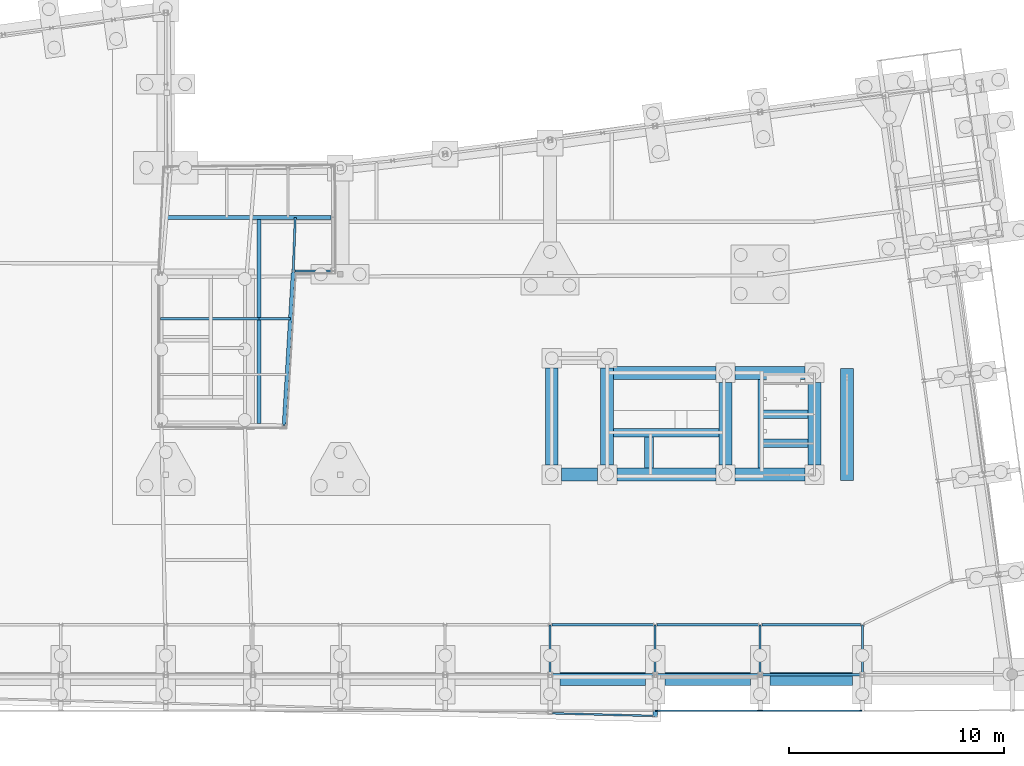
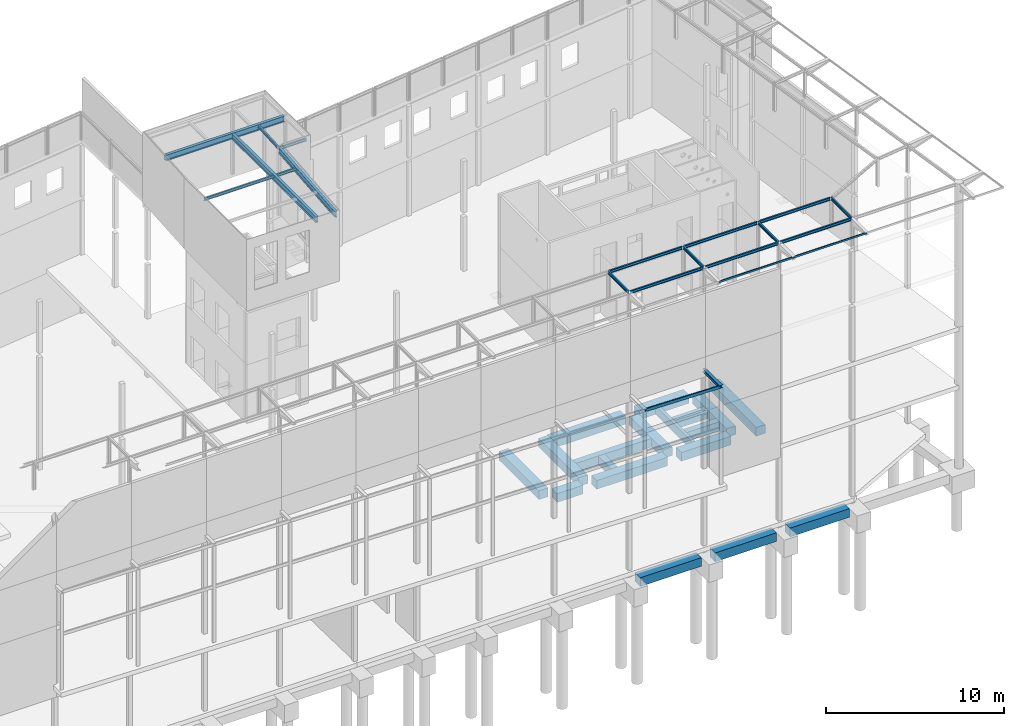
# One storey, part 63 of 82: 39 beams.
"""IFC2X3 building model written with IfcOpenShell, lengths in millimetres."""

from ifc_helpers import new_model, si_unit, frame, frame_2d, origin_with_axes, place, context, subcontext, project, spatial, rectangle, i_section, u_section, extrude, boolean, clip, halfspace, material, type_object, element, save


model = new_model("IFC2X3")

# Units and contexts
model_context = context("Model", 3, precision=1e-05, world=origin_with_axes())
body_context = subcontext(model_context, "Body", "Model", "MODEL_VIEW")
ifc_project = project(units=[si_unit("LENGTHUNIT", "METRE", prefix="MILLI"), si_unit("AREAUNIT", "SQUARE_METRE"), si_unit("VOLUMEUNIT", "CUBIC_METRE"), si_unit("MASSUNIT", "GRAM", prefix="KILO"), si_unit("TIMEUNIT", "SECOND"), si_unit("PLANEANGLEUNIT", "RADIAN"), si_unit("SOLIDANGLEUNIT", "STERADIAN"), si_unit("THERMODYNAMICTEMPERATUREUNIT", "DEGREE_CELSIUS"), si_unit("LUMINOUSINTENSITYUNIT", "LUMEN")], contexts=[model_context])

# Site, building, storey
site_placement = place(None, origin_with_axes())
site = spatial("IfcSite", under=ifc_project, at=site_placement, Name="Undefined", CompositionType="ELEMENT")
building_placement = place(site_placement, origin_with_axes())
building = spatial("IfcBuilding", under=site, at=building_placement, Name="Undefined", CompositionType="ELEMENT")
storey_placement = place(building_placement, origin_with_axes())
storey = spatial("IfcBuildingStorey", under=building, at=storey_placement, Name="Undefined", CompositionType="ELEMENT", Elevation=0.0)

# Beams
ifc_material_1 = material(Name="STEEL/S275JR")
beam_type_1 = type_object("IfcBeamType", Name="IPE200", PredefinedType="NOTDEFINED")
for number, where, z_axis, x_axis, name in (
    (1, (61599.9999979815, -0.00129040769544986, 19025.0300000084), (0.0, 1.29029999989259e-05, 0.999999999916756), (1.00000135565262e-09, 0.999999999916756, -1.29029999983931e-05), "POUTRE"),
    (2, (56849.9999979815, -0.00129040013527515, 19025.0300000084), (0.0, 1.29029999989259e-05, 0.999999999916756), (1.00000135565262e-09, 0.999999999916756, -1.29029999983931e-05), "POUTRE"),
    (3, (51974.9999979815, -0.00129039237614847, 19025.0300000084), (0.0, 1.29029999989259e-05, 0.999999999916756), (1.00000135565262e-09, 0.999999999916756, -1.29029999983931e-05), "POUTRE"),
    (4, (47099.9999979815, -0.0012903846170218, 19025.0300000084), (0.0, 1.29029999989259e-05, 0.999999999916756), (1.00000135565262e-09, 0.999999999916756, -1.29029999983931e-05), "POUTRE"),
):
    element("IfcBeam", number, at=place(storey_placement, frame(where, z_axis=z_axis, x_axis=x_axis)), inside=storey, type_object=beam_type_1, material=ifc_material_1, Name=name, ObjectType="IPE200", context=body_context, shape_type="SweptSolid", body=[
        extrude(i_section(OverallWidth=100.0, OverallDepth=200.0, WebThickness=5.599999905, FlangeThickness=8.5, FilletRadius=12.0, at=frame_2d((5.17284206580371e-08, 4.49290382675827e-10), x_axis=(1.0, 0.0))), frame((2321.00129012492, -9.56248207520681e-23, 3.93192912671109e-18), z_axis=(-1.0, 0.0, 0.0), x_axis=(-2.77555756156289e-17, -1.0, 0.0)), (0.0, 0.0, 1.0), 2317.0),
    ])
beam_1_placement = place(storey_placement, frame((35262.4999995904, 21244.1000000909, 21745.0), z_axis=(0.0, 0.0, 1.0), x_axis=(-0.0369801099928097, -0.999316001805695, 0.0)))
element("IfcBeam", 5, at=beam_1_placement, inside=storey, type_object=beam_type_1, material=ifc_material_1, Name="POUTRE", ObjectType="IPE200", context=body_context, shape_type="CSG", body=[
    boolean("DIFFERENCE", boolean("DIFFERENCE", boolean("DIFFERENCE", extrude(i_section(OverallWidth=100.0, OverallDepth=200.0, WebThickness=5.599999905, FlangeThickness=8.5, FilletRadius=12.0, at=frame_2d((5.17284206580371e-08, 4.49290382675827e-10), x_axis=(1.0, 0.0))), frame((2489.04787850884, 0.0, 3.63797880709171e-12), z_axis=(-1.0, 0.0, 0.0), x_axis=(-2.77555756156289e-17, -1.0, 0.0)), (0.0, 0.0, 1.0), 2488.1), extrude(rectangle(XDim=88.0, YDim=90.9, at=frame_2d((5.17284206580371e-08, 4.49290382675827e-10), x_axis=(1.0, 0.0))), frame((2439.73704411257, 95.6910843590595, 101.000000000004), z_axis=(0.0, -6.50000002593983e-08, -0.999999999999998), x_axis=(-0.999315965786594, -0.0369810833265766, 0.0)), (0.0, 0.0, 1.0), 202.0)), halfspace(frame((2485.30697548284, -2.91402102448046e-08, -999.999999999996), z_axis=(-0.999315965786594, -0.0369810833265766, 0.0), x_axis=(-0.036981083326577, 0.999315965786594, 0.0)), True)), halfspace(frame((4.69737536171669, -3.30765033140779e-08, -999.999999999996), z_axis=(0.999318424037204, 0.036914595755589, 0.0), x_axis=(0.036914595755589, -0.999318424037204, 0.0)), True)),
])
beam_2_placement = place(storey_placement, frame((33575.0000004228, 16535.1505018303, 21745.0), z_axis=(0.0, 0.0, 1.0), x_axis=(1.0, 0.0, 0.0)))
element("IfcBeam", 6, at=beam_2_placement, inside=storey, type_object=beam_type_1, material=ifc_material_1, Name="POUTRE", ObjectType="IPE200", context=body_context, shape_type="Clipping", body=[
    clip(extrude(i_section(OverallWidth=100.0, OverallDepth=200.0, WebThickness=5.599999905, FlangeThickness=8.5, FilletRadius=12.0, at=frame_2d((5.17284206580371e-08, 4.49290382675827e-10), x_axis=(1.0, 0.0))), frame((1462.4824416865, 0.0, 0.0), z_axis=(-1.0, 0.0, 0.0), x_axis=(-2.77555756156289e-17, -1.0, 0.0)), (0.0, 0.0, 1.0), 1458.2), halfspace(frame((1459.48955715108, -2.67646100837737e-08, -1000.0), z_axis=(-0.998248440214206, 0.0591612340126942, 0.0), x_axis=(0.0591612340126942, 0.998248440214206, 0.0)), True)),
])
beam_3_placement = place(storey_placement, frame((29249.9999999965, 16535.1505018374, 21745.0), z_axis=(0.0, 0.0, 1.0), x_axis=(1.0, 0.0, 0.0)))
element("IfcBeam", 7, at=beam_3_placement, inside=storey, type_object=beam_type_1, material=ifc_material_1, Name="POUTRE", ObjectType="IPE200", context=body_context, shape_type="SweptSolid", body=[
    extrude(i_section(OverallWidth=100.0, OverallDepth=200.0, WebThickness=5.599999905, FlangeThickness=8.5, FilletRadius=12.0, at=frame_2d((5.17284206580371e-08, 4.49290382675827e-10), x_axis=(1.0, 0.0))), frame((4320.70000113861, 0.0, 0.0), z_axis=(-1.0, 0.0, 0.0), x_axis=(-2.77555756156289e-17, -1.0, 0.0)), (0.0, 0.0, 1.0), 4562.6),
])
beam_4_placement = place(storey_placement, frame((35170.4450535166, 18756.4929699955, 21745.0), z_axis=(0.0, 0.0, 1.0), x_axis=(0.999999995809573, 9.15469999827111e-05, 0.0)))
element("IfcBeam", 8, at=beam_4_placement, inside=storey, type_object=beam_type_1, material=ifc_material_1, Name="POUTRE", ObjectType="IPE200", context=body_context, shape_type="SweptSolid", body=[
    extrude(i_section(OverallWidth=100.0, OverallDepth=200.0, WebThickness=5.599999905, FlangeThickness=8.5, FilletRadius=12.0, at=frame_2d((5.17284206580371e-08, 4.49290382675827e-10), x_axis=(1.0, 0.0))), frame((1772.19505416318, -2.40177215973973e-17, 0.0), z_axis=(-1.0, 0.0, 0.0), x_axis=(-2.77555756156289e-17, -1.0, 0.0)), (0.0, 0.0, 1.0), 1692.2),
])
beam_5_placement = place(storey_placement, frame((56850.0000000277, 2324.9999999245, 19025.0000000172), z_axis=(0.0, 0.0, 1.0), x_axis=(1.0, 0.0, 0.0)))
element("IfcBeam", 9, at=beam_5_placement, inside=storey, type_object=beam_type_1, material=ifc_material_1, Name="POUTRE", ObjectType="IPE200", context=body_context, shape_type="SweptSolid", body=[
    extrude(i_section(OverallWidth=100.0, OverallDepth=200.0, WebThickness=5.599999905, FlangeThickness=8.5, FilletRadius=12.0, at=frame_2d((5.17284206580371e-08, 4.49290382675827e-10), x_axis=(1.0, 0.0))), frame((4670.00000115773, 0.0, 0.0), z_axis=(-1.0, 0.0, 0.0), x_axis=(-2.77555756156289e-17, -1.0, 0.0)), (0.0, 0.0, 1.0), 4590.0),
])
for number, where, z_axis, x_axis, name in (
    (10, (51975.0000001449, 2324.99999991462, 19025.0000000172), (0.0, 0.0, 1.0), (1.0, 0.0, 0.0), "POUTRE"),
    (11, (47100.0000001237, 2324.99999986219, 19025.0000000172), (0.0, 0.0, 1.0), (1.0, 0.0, 0.0), "POUTRE"),
):
    element("IfcBeam", number, at=place(storey_placement, frame(where, z_axis=z_axis, x_axis=x_axis)), inside=storey, type_object=beam_type_1, material=ifc_material_1, Name=name, ObjectType="IPE200", context=body_context, shape_type="SweptSolid", body=[
        extrude(i_section(OverallWidth=100.0, OverallDepth=200.0, WebThickness=5.599999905, FlangeThickness=8.5, FilletRadius=12.0, at=frame_2d((5.17284206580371e-08, 4.49290382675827e-10), x_axis=(1.0, 0.0))), frame((4795.00000103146, 0.0, 0.0), z_axis=(-1.0, 0.0, 0.0), x_axis=(-2.77555756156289e-17, -1.0, 0.0)), (0.0, 0.0, 1.0), 4715.0),
    ])
beam_6_placement = place(storey_placement, frame((56850.0006315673, -8.15936971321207e-08, 19025.000000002), z_axis=(-6.11252893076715e-06, 2.76481135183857e-10, 0.999999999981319), x_axis=(0.999999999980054, 0.0, 6.31599999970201e-06)))
element("IfcBeam", 12, at=beam_6_placement, inside=storey, type_object=beam_type_1, material=ifc_material_1, Name="POUTRE", ObjectType="IPE200", context=body_context, shape_type="SweptSolid", body=[
    extrude(i_section(OverallWidth=100.0, OverallDepth=200.0, WebThickness=5.599999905, FlangeThickness=8.5, FilletRadius=12.0, at=frame_2d((5.17284206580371e-08, 4.49290382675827e-10), x_axis=(1.0, 0.0))), frame((4669.99936860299, -1.32348898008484e-23, -3.95564332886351e-18), z_axis=(-1.0, 0.0, 0.0), x_axis=(-2.77555756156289e-17, -1.0, 0.0)), (0.0, 0.0, 1.0), 4590.0),
])
beam_7_placement = place(storey_placement, frame((51974.9993846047, -7.35289802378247e-08, 19025.0300000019), z_axis=(6.15400000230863e-06, 0.0, 0.999999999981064), x_axis=(0.999999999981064, 0.0, -6.1540000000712e-06)))
element("IfcBeam", 13, at=beam_7_placement, inside=storey, type_object=beam_type_1, material=ifc_material_1, Name="POUTRE", ObjectType="IPE200", context=body_context, shape_type="SweptSolid", body=[
    extrude(i_section(OverallWidth=100.0, OverallDepth=200.0, WebThickness=5.599999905, FlangeThickness=8.5, FilletRadius=12.0, at=frame_2d((5.17284206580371e-08, 4.49290382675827e-10), x_axis=(1.0, 0.0))), frame((4795.00061555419, 0.0, 4.06152350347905e-18), z_axis=(-1.0, 0.0, 0.0), x_axis=(-2.77555756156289e-17, -1.0, 0.0)), (0.0, 0.0, 1.0), 4715.0),
])
beam_8_placement = place(storey_placement, frame((47100.0001205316, -6.54460734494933e-08, 19025.0002625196), z_axis=(-6.11252893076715e-06, 2.76481135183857e-10, 0.999999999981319), x_axis=(0.999999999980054, 0.0, 6.31599999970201e-06)))
element("IfcBeam", 14, at=beam_8_placement, inside=storey, type_object=beam_type_1, material=ifc_material_1, Name="POUTRE", ObjectType="IPE200", context=body_context, shape_type="SweptSolid", body=[
    extrude(i_section(OverallWidth=100.0, OverallDepth=200.0, WebThickness=5.599999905, FlangeThickness=8.5, FilletRadius=12.0, at=frame_2d((5.17284206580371e-08, 4.49290382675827e-10), x_axis=(1.0, 0.0))), frame((4794.99987961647, 0.0, -4.06152288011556e-18), z_axis=(-1.0, 0.0, 0.0), x_axis=(-2.77555756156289e-17, -1.0, 0.0)), (0.0, 0.0, 1.0), 4715.0),
])
beam_type_2 = type_object("IfcBeamType", Name="UPE120", PredefinedType="NOTDEFINED")
beam_9_placement = place(storey_placement, frame((56859.6818417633, -1670.00005427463, 19065.0), z_axis=(0.0, -6.50000002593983e-08, -0.999999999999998), x_axis=(1.0, 0.0, 0.0)))
element("IfcBeam", 15, at=beam_9_placement, inside=storey, type_object=beam_type_2, material=ifc_material_1, Name="POUTRE", ObjectType="UPE120", context=body_context, shape_type="CSG", body=[
    boolean("DIFFERENCE", boolean("DIFFERENCE", extrude(u_section(Depth=120.0, FlangeWidth=60.0, WebThickness=5.0, FlangeThickness=8.0, FilletRadius=12.0, at=frame_2d((5.17284206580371e-08, 4.49290382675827e-10), x_axis=(1.0, 0.0))), frame((4735.31767284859, 0.0, 0.0), z_axis=(-1.0, 0.0, 0.0), x_axis=(-2.77555756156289e-17, -1.0, 0.0)), (0.0, 0.0, 1.0), 4740.0), extrude(rectangle(XDim=22.0, YDim=112.0, at=frame_2d((5.17284206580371e-08, 4.49290382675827e-10), x_axis=(1.0, 0.0))), frame((49.3176728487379, 31.0, -50.0148687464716), z_axis=(-2.77555756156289e-17, -1.0, 0.0), x_axis=(0.0, 0.0, 1.0)), (0.0, 0.0, 1.0), 62.0)), extrude(rectangle(XDim=22.0, YDim=112.0, at=frame_2d((5.17284206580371e-08, 4.49290382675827e-10), x_axis=(1.0, 0.0))), frame((4681.31767284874, -31.0, -50.0148687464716), z_axis=(0.0, 1.0, 0.0), x_axis=(0.0, 0.0, 1.0)), (0.0, 0.0, 1.0), 62.0)),
])
beam_10_placement = place(storey_placement, frame((51984.681841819, -1670.00005428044, 19065.0), z_axis=(0.0, -6.50000002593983e-08, -0.999999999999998), x_axis=(1.0, 0.0, 0.0)))
element("IfcBeam", 16, at=beam_10_placement, inside=storey, type_object=beam_type_2, material=ifc_material_1, Name="POUTRE", ObjectType="UPE120", context=body_context, shape_type="CSG", body=[
    boolean("DIFFERENCE", boolean("DIFFERENCE", extrude(u_section(Depth=120.0, FlangeWidth=60.0, WebThickness=5.0, FlangeThickness=8.0, FilletRadius=12.0, at=frame_2d((5.17284206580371e-08, 4.49290382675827e-10), x_axis=(1.0, 0.0))), frame((4860.31767279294, 0.0, 0.0), z_axis=(-1.0, 0.0, 0.0), x_axis=(-2.77555756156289e-17, -1.0, 0.0)), (0.0, 0.0, 1.0), 4865.0), extrude(rectangle(XDim=22.0, YDim=112.0, at=frame_2d((5.17284206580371e-08, 4.49290382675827e-10), x_axis=(1.0, 0.0))), frame((49.3176728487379, 31.0, -50.0148687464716), z_axis=(-2.77555756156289e-17, -1.0, 0.0), x_axis=(0.0, 0.0, 1.0)), (0.0, 0.0, 1.0), 62.0)), extrude(rectangle(XDim=22.0, YDim=112.0, at=frame_2d((5.17284206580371e-08, 4.49290382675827e-10), x_axis=(1.0, 0.0))), frame((4806.31767279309, -31.0, -50.0148687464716), z_axis=(0.0, 1.0, 0.0), x_axis=(0.0, 0.0, 1.0)), (0.0, 0.0, 1.0), 62.0)),
])
beam_type_3 = type_object("IfcBeamType", Name="IPE400", PredefinedType="NOTDEFINED")
beam_11_placement = place(storey_placement, frame((33575.0000013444, 11624.9999997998, 21695.0), z_axis=(0.0, 0.0, 1.0), x_axis=(0.0, 1.0, 0.0)))
element("IfcBeam", 17, at=beam_11_placement, inside=storey, type_object=beam_type_3, material=ifc_material_1, Name="POUTRE", ObjectType="IPE400", context=body_context, shape_type="CSG", body=[
    boolean("DIFFERENCE", boolean("DIFFERENCE", boolean("DIFFERENCE", boolean("DIFFERENCE", boolean("DIFFERENCE", extrude(i_section(OverallWidth=180.0, OverallDepth=400.0, WebThickness=8.600000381, FlangeThickness=13.5, FilletRadius=21.0, at=frame_2d((5.17284206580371e-08, 4.49290382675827e-10), x_axis=(1.0, 0.0))), frame((9614.51645735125, 0.0, 0.0), z_axis=(-1.0, 0.0, 0.0), x_axis=(-2.77555756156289e-17, -1.0, 0.0)), (0.0, 0.0, 1.0), 9657.6), extrude(rectangle(XDim=35.5, YDim=97.7, at=frame_2d((5.17284206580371e-08, 4.49290382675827e-10), x_axis=(1.0, 0.0))), frame((2.9313771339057, -91.4589538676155, -183.25), z_axis=(0.00979726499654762, 0.999952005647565, 0.0), x_axis=(0.0, -6.50000002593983e-08, -0.999999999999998)), (0.0, 0.0, 1.0), 275.7)), extrude(rectangle(XDim=35.5, YDim=97.7, at=frame_2d((5.17284206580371e-08, 4.49290382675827e-10), x_axis=(1.0, 0.0))), frame((2.9313771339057, -91.4589538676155, 183.25), z_axis=(0.00979726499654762, 0.999952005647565, 0.0), x_axis=(0.0, -6.50000002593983e-08, -0.999999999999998)), (0.0, 0.0, 1.0), 275.7)), extrude(rectangle(XDim=35.5, YDim=97.7, at=frame_2d((5.17284206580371e-08, 4.49290382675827e-10), x_axis=(1.0, 0.0))), frame((9567.67242342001, 91.0030714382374, -183.249999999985), z_axis=(-6.55589999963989e-05, -0.999999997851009, 0.0), x_axis=(0.0, -6.50000002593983e-08, -0.999999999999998)), (0.0, 0.0, 1.0), 182.6)), extrude(rectangle(XDim=35.5, YDim=97.7, at=frame_2d((5.17284206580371e-08, 4.49290382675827e-10), x_axis=(1.0, 0.0))), frame((9567.67242342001, 91.0030714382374, 183.25), z_axis=(-6.55589999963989e-05, -0.999999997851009, 0.0), x_axis=(0.0, -6.50000002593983e-08, -0.999999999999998)), (0.0, 0.0, 1.0), 182.6)), halfspace(frame((-43.0247808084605, 1.87428668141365e-08, -1000.0), z_axis=(0.999952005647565, -0.00979726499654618, 0.0), x_axis=(-0.00979726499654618, -0.999952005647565, 0.0)), True)),
])
beam_12_placement = place(storey_placement, frame((35170.4450535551, 18756.4929699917, 21695.0), z_axis=(0.0, 0.0, 1.0), x_axis=(-0.0591612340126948, -0.998248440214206, 0.0)))
element("IfcBeam", 18, at=beam_12_placement, inside=storey, type_object=beam_type_3, material=ifc_material_1, Name="POUTRE", ObjectType="IPE400", context=body_context, shape_type="CSG", body=[
    boolean("DIFFERENCE", boolean("DIFFERENCE", boolean("DIFFERENCE", boolean("DIFFERENCE", boolean("DIFFERENCE", boolean("DIFFERENCE", extrude(i_section(OverallWidth=180.0, OverallDepth=400.0, WebThickness=8.600000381, FlangeThickness=13.5, FilletRadius=21.0, at=frame_2d((5.17284206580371e-08, 4.49290382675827e-10), x_axis=(1.0, 0.0))), frame((7209.04924612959, 0.0, -3.63797880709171e-12), z_axis=(-1.0, 0.0, 0.0), x_axis=(-2.77555756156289e-17, -1.0, 0.0)), (0.0, 0.0, 1.0), 7215.2), extrude(rectangle(XDim=38.9, YDim=88.0, at=frame_2d((5.17284206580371e-08, 4.49290382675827e-10), x_axis=(1.0, 0.0))), frame((41.6916689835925, 74.0567192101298, 200.999999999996), z_axis=(0.0, -6.50000002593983e-08, -0.999999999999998), x_axis=(0.0591622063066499, -0.99824838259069, 0.0)), (0.0, 0.0, 1.0), 402.0)), extrude(rectangle(XDim=88.0, YDim=460.0, at=frame_2d((5.17284206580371e-08, 4.49290382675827e-10), x_axis=(1.0, 0.0))), frame((62.6020702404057, -278.766063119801, 200.999999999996), z_axis=(0.0, -6.50000002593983e-08, -0.999999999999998), x_axis=(0.998248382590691, 0.0591622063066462, 0.0)), (0.0, 0.0, 1.0), 402.0)), extrude(rectangle(XDim=38.9, YDim=88.0, at=frame_2d((5.17284206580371e-08, 4.49290382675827e-10), x_axis=(1.0, 0.0))), frame((7161.19920422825, -74.056719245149, 200.999999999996), z_axis=(0.0, -6.50000002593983e-08, -0.999999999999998), x_axis=(-0.0591622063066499, 0.99824838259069, 0.0)), (0.0, 0.0, 1.0), 402.0)), extrude(rectangle(XDim=88.0, YDim=465.1, at=frame_2d((5.17284206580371e-08, 4.49290382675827e-10), x_axis=(1.0, 0.0))), frame((7140.13803171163, 281.310037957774, 200.999999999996), z_axis=(0.0, -6.50000002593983e-08, -0.999999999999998), x_axis=(-0.998248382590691, -0.059162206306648, 0.0)), (0.0, 0.0, 1.0), 402.0)), halfspace(frame((7198.88385443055, -1.71276042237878e-08, -1000.0), z_axis=(-0.998248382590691, -0.059162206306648, 0.0), x_axis=(-0.0591622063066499, 0.99824838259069, 0.0)), True)), halfspace(frame((4.00701880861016, -2.85072019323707e-08, -1000.0), z_axis=(0.998248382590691, 0.0591622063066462, 0.0), x_axis=(0.0591622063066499, -0.99824838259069, 0.0)), True)),
])
beam_13_placement = place(storey_placement, frame((29249.9999999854, 21244.100000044, 21695.0), z_axis=(0.0, 0.0, 1.0), x_axis=(0.999999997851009, -6.55589999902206e-05, 0.0)))
element("IfcBeam", 19, at=beam_13_placement, inside=storey, type_object=beam_type_3, material=ifc_material_1, Name="POUTRE", ObjectType="IPE400", context=body_context, shape_type="CSG", body=[
    boolean("DIFFERENCE", boolean("DIFFERENCE", boolean("DIFFERENCE", extrude(i_section(OverallWidth=180.0, OverallDepth=400.0, WebThickness=8.600000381, FlangeThickness=13.5, FilletRadius=21.0, at=frame_2d((5.17284206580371e-08, 4.49290382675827e-10), x_axis=(1.0, 0.0))), frame((7679.70039665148, -1.04079348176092e-16, 0.0), z_axis=(-1.0, 0.0, 0.0), x_axis=(-2.77555756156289e-17, -1.0, 0.0)), (0.0, 0.0, 1.0), 7791.2), extrude(rectangle(XDim=35.5, YDim=97.7, at=frame_2d((5.17284206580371e-08, 4.49290382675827e-10), x_axis=(1.0, 0.0))), frame((-69.0406044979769, -93.3468397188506, -183.25), z_axis=(0.0501194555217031, 0.998743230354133, 0.0), x_axis=(0.0, -6.50000002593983e-08, -0.999999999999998)), (0.0, 0.0, 1.0), 572.5)), extrude(rectangle(XDim=35.5, YDim=97.7, at=frame_2d((5.17284206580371e-08, 4.49290382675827e-10), x_axis=(1.0, 0.0))), frame((-69.0406044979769, -93.3468397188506, 183.249999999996), z_axis=(0.0501194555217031, 0.998743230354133, 0.0), x_axis=(0.0, -6.50000002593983e-08, -0.999999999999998)), (0.0, 0.0, 1.0), 572.5)), halfspace(frame((-111.265178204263, -1.73786247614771e-08, -1000.0), z_axis=(0.998743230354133, -0.0501194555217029, 0.0), x_axis=(-0.0501194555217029, -0.998743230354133, 0.0)), True)),
])
beam_type_4 = type_object("IfcBeamType", Name="UPE200", PredefinedType="NOTDEFINED")
beam_14_placement = place(storey_placement, frame((47101.0354454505, -1785.15877566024, 12025.0), z_axis=(0.0, -6.50000002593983e-08, -0.999999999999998), x_axis=(0.999664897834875, -0.0258861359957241, 0.0)))
element("IfcBeam", 20, at=beam_14_placement, inside=storey, type_object=beam_type_4, material=ifc_material_1, Name="POUTRE", ObjectType="UPE200", context=body_context, shape_type="CSG", body=[
    boolean("DIFFERENCE", boolean("DIFFERENCE", boolean("DIFFERENCE", boolean("DIFFERENCE", boolean("DIFFERENCE", boolean("DIFFERENCE", extrude(u_section(Depth=200.0, FlangeWidth=80.0, WebThickness=6.0, FlangeThickness=11.0, FilletRadius=13.0, at=frame_2d((5.17284206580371e-08, 4.49290382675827e-10), x_axis=(1.0, 0.0))), frame((4873.11774498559, 1.13686837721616e-13, 0.0), z_axis=(-1.0, 0.0, 0.0), x_axis=(-2.77555756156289e-17, -1.0, 0.0)), (0.0, 0.0, 1.0), 4871.7), extrude(rectangle(XDim=34.0, YDim=107.5, at=frame_2d((5.17284206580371e-08, 4.49290382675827e-10), x_axis=(1.0, 0.0))), frame((4815.11149004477, -162.89100776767, 84.0), z_axis=(0.02588613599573, 0.999664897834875, 0.0), x_axis=(0.0, 0.0, 1.0)), (0.0, 0.0, 1.0), 205.3)), extrude(rectangle(XDim=34.0, YDim=107.5, at=frame_2d((5.17284206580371e-08, 4.49290382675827e-10), x_axis=(1.0, 0.0))), frame((4815.11149004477, -162.89100776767, -84.0), z_axis=(0.02588613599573, 0.999664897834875, 0.0), x_axis=(0.0, 0.0, 1.0)), (0.0, 0.0, 1.0), 205.3)), extrude(rectangle(XDim=34.0, YDim=107.5, at=frame_2d((5.17284206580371e-08, 4.49290382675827e-10), x_axis=(1.0, 0.0))), frame((59.5218139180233, 165.621995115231, 84.0), z_axis=(-0.0258861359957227, -0.999664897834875, 0.0), x_axis=(0.0, 0.0, 1.0)), (0.0, 0.0, 1.0), 208.0)), extrude(rectangle(XDim=34.0, YDim=107.5, at=frame_2d((5.17284206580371e-08, 4.49290382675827e-10), x_axis=(1.0, 0.0))), frame((59.5218139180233, 165.621995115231, -84.0), z_axis=(-0.0258861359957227, -0.999664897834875, 0.0), x_axis=(0.0, 0.0, 1.0)), (0.0, 0.0, 1.0), 208.0)), halfspace(frame((4871.09686964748, 5.36316520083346e-08, 1000.0), z_axis=(-0.999664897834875, 0.0258861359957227, 0.0), x_axis=(-0.0258861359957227, -0.999664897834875, 0.0)), True)), halfspace(frame((3.4657159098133, 4.58945805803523e-08, 1000.0), z_axis=(0.999664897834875, -0.0258861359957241, 0.0), x_axis=(0.02588613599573, 0.999664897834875, 0.0)), True)),
])
beam_type_5 = type_object("IfcBeamType", Name="HEB200", PredefinedType="NOTDEFINED")
beam_15_placement = place(storey_placement, frame((51974.9999999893, -7.35217042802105e-08, 12025.0), z_axis=(0.0, 0.0, 1.0), x_axis=(-2.77555756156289e-17, -1.0, 0.0)))
element("IfcBeam", 21, at=beam_15_placement, inside=storey, type_object=beam_type_5, material=ifc_material_1, Name="POUTRE", ObjectType="HEB200", context=body_context, shape_type="SweptSolid", body=[
    extrude(i_section(OverallWidth=200.0, OverallDepth=200.0, WebThickness=9.0, FlangeThickness=15.0, FilletRadius=18.0, at=frame_2d((5.17284206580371e-08, 4.49290382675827e-10), x_axis=(1.0, 0.0))), frame((1951.38258896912, 0.0, 0.0), z_axis=(-1.0, 0.0, 0.0), x_axis=(-2.77555756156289e-17, -1.0, 0.0)), (0.0, 0.0, 1.0), 1951.4),
])
ifc_material_2 = material(Name="CONCRETE/C30/37")
beam_type_6 = type_object("IfcBeamType", Name="600*400", PredefinedType="NOTDEFINED")
beam_16_placement = place(storey_placement, frame((51690.6892198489, 9599.99881546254, -750.000000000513), z_axis=(0.0, 0.0, 1.0), x_axis=(0.0, 1.0, 0.0)))
element("IfcBeam", 22, at=beam_16_placement, inside=storey, type_object=beam_type_6, material=ifc_material_2, Name="LONGRINE", ObjectType="600*400", context=body_context, shape_type="SweptSolid", body=[
    extrude(rectangle(XDim=400.0, YDim=600.0, at=frame_2d((5.17284206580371e-08, 4.49290382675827e-10), x_axis=(1.0, 0.0))), frame((1450.00153156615, 0.0, 0.0), z_axis=(-1.0, 0.0, 0.0), x_axis=(-2.77555756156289e-17, -1.0, 0.0)), (0.0, 0.0, 1.0), 1450.0),
])
beam_17_placement = place(storey_placement, frame((50049.9993138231, 11250.0003470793, -750.000000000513), z_axis=(0.0, 0.0, 1.0), x_axis=(1.0, 0.0, 0.0)))
element("IfcBeam", 23, at=beam_17_placement, inside=storey, type_object=beam_type_6, material=ifc_material_2, Name="LONGRINE", ObjectType="600*400", context=body_context, shape_type="SweptSolid", body=[
    extrude(rectangle(XDim=400.0, YDim=600.0, at=frame_2d((5.17284206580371e-08, 4.49290382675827e-10), x_axis=(1.0, 0.0))), frame((4896.37904381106, 0.0, 0.0), z_axis=(-1.0, 0.0, 0.0), x_axis=(-2.77555756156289e-17, -1.0, 0.0)), (0.0, 0.0, 1.0), 4896.4),
])
beam_18_placement = place(storey_placement, frame((59074.9996189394, 12099.9997748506, -750.000000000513), z_axis=(0.0, 0.0, 1.0), x_axis=(-1.0, 0.0, 0.0)))
element("IfcBeam", 24, at=beam_18_placement, inside=storey, type_object=beam_type_6, material=ifc_material_2, Name="LONGRINE", ObjectType="600*400", context=body_context, shape_type="SweptSolid", body=[
    extrude(rectangle(XDim=400.0, YDim=600.0, at=frame_2d((5.17284206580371e-08, 4.49290382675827e-10), x_axis=(1.0, 0.0))), frame((2124.99961828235, 0.0, 0.0), z_axis=(-1.0, 0.0, 0.0), x_axis=(-2.77555756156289e-17, -1.0, 0.0)), (0.0, 0.0, 1.0), 2125.0),
])
beam_19_placement = place(storey_placement, frame((59074.9994744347, 10749.4681968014, -750.000000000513), z_axis=(0.0, 0.0, 1.0), x_axis=(-1.0, 0.0, 0.0)))
element("IfcBeam", 25, at=beam_19_placement, inside=storey, type_object=beam_type_6, material=ifc_material_2, Name="LONGRINE", ObjectType="600*400", context=body_context, shape_type="SweptSolid", body=[
    extrude(rectangle(XDim=400.0, YDim=600.0, at=frame_2d((5.17284206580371e-08, 4.49290382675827e-10), x_axis=(1.0, 0.0))), frame((2124.99947377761, 0.0, 0.0), z_axis=(-1.0, 0.0, 0.0), x_axis=(-2.77555756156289e-17, -1.0, 0.0)), (0.0, 0.0, 1.0), 2125.0),
])
beam_type_7 = type_object("IfcBeamType", Name="600*200", PredefinedType="NOTDEFINED")
beam_20_placement = place(storey_placement, frame((56850.0000006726, 9600.00181590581, -750.000000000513), z_axis=(0.0, 0.0, 1.0), x_axis=(0.0, 1.0, 0.0)))
element("IfcBeam", 26, at=beam_20_placement, inside=storey, type_object=beam_type_7, material=ifc_material_2, Name="LONGRINE", ObjectType="600*200", context=body_context, shape_type="SweptSolid", body=[
    extrude(rectangle(XDim=200.0, YDim=600.0, at=frame_2d((5.17284206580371e-08, 4.49290382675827e-10), x_axis=(1.0, 0.0))), frame((4124.99611639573, 0.0, 0.0), z_axis=(-1.0, 0.0, 0.0), x_axis=(-2.77555756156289e-17, -1.0, 0.0)), (0.0, 0.0, 1.0), 4125.0),
])
beam_type_8 = type_object("IfcBeamType", Name="600*600", PredefinedType="NOTDEFINED")
beam_21_placement = place(storey_placement, frame((55246.3783576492, 9299.99663916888, -750.000000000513), z_axis=(0.0, 0.0, 1.0), x_axis=(0.0, 1.0, 0.0)))
element("IfcBeam", 27, at=beam_21_placement, inside=storey, type_object=beam_type_8, material=ifc_material_2, Name="LONGRINE", ObjectType="600*600", context=body_context, shape_type="SweptSolid", body=[
    extrude(rectangle(XDim=600.0, YDim=600.0, at=frame_2d((5.17284206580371e-08, 4.49290382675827e-10), x_axis=(1.0, 0.0))), frame((4274.99958385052, 0.0, 0.0), z_axis=(-1.0, 0.0, 0.0), x_axis=(-2.77555756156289e-17, -1.0, 0.0)), (0.0, 0.0, 1.0), 3825.0),
])
beam_22_placement = place(storey_placement, frame((55246.3783580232, 14024.9962232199, -750.000000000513), z_axis=(0.0, 0.0, 1.0), x_axis=(-1.0, 0.0, 0.0)))
element("IfcBeam", 28, at=beam_22_placement, inside=storey, type_object=beam_type_8, material=ifc_material_2, Name="LONGRINE", ObjectType="600*600", context=body_context, shape_type="SweptSolid", body=[
    extrude(rectangle(XDim=600.0, YDim=600.0, at=frame_2d((5.17284206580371e-08, 4.49290382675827e-10), x_axis=(1.0, 0.0))), frame((5196.3791250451, -1.81898940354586e-12, 1.13686837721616e-13), z_axis=(-1.0, 0.0, 0.0), x_axis=(-2.77555756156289e-17, -1.0, 0.0)), (0.0, 0.0, 1.0), 4746.4),
])
beam_23_placement = place(storey_placement, frame((59374.9998247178, 14025.000624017, -750.000000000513), z_axis=(0.0, 0.0, 1.0), x_axis=(-0.999999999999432, -1.06600000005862e-06, 0.0)))
element("IfcBeam", 29, at=beam_23_placement, inside=storey, type_object=beam_type_8, material=ifc_material_2, Name="LONGRINE", ObjectType="600*600", context=body_context, shape_type="SweptSolid", body=[
    extrude(rectangle(XDim=600.0, YDim=600.0, at=frame_2d((5.17284206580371e-08, 4.49290382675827e-10), x_axis=(1.0, 0.0))), frame((3678.62146718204, 0.0, 0.0), z_axis=(-1.0, 0.0, 0.0), x_axis=(-2.77555756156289e-17, -1.0, 0.0)), (0.0, 0.0, 1.0), 3228.6),
])
beam_24_placement = place(storey_placement, frame((59374.9993188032, 9300.00996603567, -750.000000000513), z_axis=(0.0, 0.0, 1.0), x_axis=(0.0, 1.0, 0.0)))
element("IfcBeam", 30, at=beam_24_placement, inside=storey, type_object=beam_type_8, material=ifc_material_2, Name="LONGRINE", ObjectType="600*600", context=body_context, shape_type="SweptSolid", body=[
    extrude(rectangle(XDim=600.0, YDim=600.0, at=frame_2d((5.17284206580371e-08, 4.49290382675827e-10), x_axis=(1.0, 0.0))), frame((4274.99065777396, 0.0, 1.13686837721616e-13), z_axis=(-1.0, 0.0, 0.0), x_axis=(-2.77555756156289e-17, -1.0, 0.0)), (0.0, 0.0, 1.0), 3825.0),
])
for number, where, z_axis, x_axis in (
    (31, (49749.9992134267, 14700.0005714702, -750.000000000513), (0.0, 0.0, 1.0), (-2.77555756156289e-17, -1.0, 0.0)),
    (32, (47175.000896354, 9300.00000054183, -750.000000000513), (0.0, 0.0, 1.0), (0.0, 1.0, 0.0)),
):
    element("IfcBeam", number, at=place(storey_placement, frame(where, z_axis=z_axis, x_axis=x_axis)), inside=storey, type_object=beam_type_8, material=ifc_material_2, Name="LONGRINE", ObjectType="600*600", context=body_context, shape_type="SweptSolid", body=[
        extrude(rectangle(XDim=600.0, YDim=600.0, at=frame_2d((5.17284206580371e-08, 4.49290382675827e-10), x_axis=(1.0, 0.0))), frame((4950.00057148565, -1.63781780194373e-20, 0.0), z_axis=(-1.0, 0.0, 0.0), x_axis=(-2.77555756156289e-17, -1.0, 0.0)), (0.0, 0.0, 1.0), 4500.0),
    ])
beam_25_placement = place(storey_placement, frame((49749.9993706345, 9300.00000024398, -750.000000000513), z_axis=(0.0, 0.0, 1.0), x_axis=(-1.0, 0.0, 0.0)))
element("IfcBeam", 33, at=beam_25_placement, inside=storey, type_object=beam_type_8, material=ifc_material_2, Name="LONGRINE", ObjectType="600*600", context=body_context, shape_type="SweptSolid", body=[
    extrude(rectangle(XDim=600.0, YDim=600.0, at=frame_2d((5.17284206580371e-08, 4.49290382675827e-10), x_axis=(1.0, 0.0))), frame((2124.99847457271, 0.0, 0.0), z_axis=(-1.0, 0.0, 0.0), x_axis=(-2.77555756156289e-17, -1.0, 0.0)), (0.0, 0.0, 1.0), 1675.0),
])
beam_26_placement = place(storey_placement, frame((55246.3783576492, 9299.99663916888, -750.000000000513), z_axis=(0.0, 0.0, 1.0), x_axis=(-1.0, 0.0, 0.0)))
element("IfcBeam", 34, at=beam_26_placement, inside=storey, type_object=beam_type_8, material=ifc_material_2, Name="LONGRINE", ObjectType="600*600", context=body_context, shape_type="SweptSolid", body=[
    extrude(rectangle(XDim=600.0, YDim=600.0, at=frame_2d((5.17284206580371e-08, 4.49290382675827e-10), x_axis=(1.0, 0.0))), frame((5046.37898736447, 0.0, 0.0), z_axis=(-1.0, 0.0, 0.0), x_axis=(-2.77555756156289e-17, -1.0, 0.0)), (0.0, 0.0, 1.0), 4596.4),
])
beam_27_placement = place(storey_placement, frame((55246.3783576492, 9299.99663916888, -750.000000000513), z_axis=(0.0, 0.0, 1.0), x_axis=(0.99999999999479, 3.22799999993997e-06, 0.0)))
element("IfcBeam", 35, at=beam_27_placement, inside=storey, type_object=beam_type_8, material=ifc_material_2, Name="LONGRINE", ObjectType="600*600", context=body_context, shape_type="SweptSolid", body=[
    extrude(rectangle(XDim=600.0, YDim=600.0, at=frame_2d((5.17284206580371e-08, 4.49290382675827e-10), x_axis=(1.0, 0.0))), frame((3678.62096061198, -1.81898940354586e-12, 0.0), z_axis=(-1.0, 0.0, 0.0), x_axis=(-2.77555756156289e-17, -1.0, 0.0)), (0.0, 0.0, 1.0), 3228.6),
])
beam_28_placement = place(storey_placement, frame((60884.2848683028, 9024.99977517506, -750.000000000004), z_axis=(0.0, 0.0, 1.0), x_axis=(0.0, 1.0, 0.0)))
element("IfcBeam", 36, at=beam_28_placement, inside=storey, type_object=beam_type_8, material=ifc_material_2, Name="LONGRINE", ObjectType="600*600", context=body_context, shape_type="SweptSolid", body=[
    extrude(rectangle(XDim=600.0, YDim=600.0, at=frame_2d((5.17284206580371e-08, 4.49290382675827e-10), x_axis=(1.0, 0.0))), frame((5199.99980911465, 1.37642848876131e-19, -1.13686837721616e-13), z_axis=(-1.0, 0.0, 0.0), x_axis=(-2.77555756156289e-17, -1.0, 0.0)), (0.0, 0.0, 1.0), 5200.0),
])
beam_29_placement = place(storey_placement, frame((56850.00189475, -190.000000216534, -750.029999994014), z_axis=(-6.11252893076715e-06, 2.76481135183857e-10, 0.999999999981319), x_axis=(0.999999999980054, 0.0, 6.31599999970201e-06)))
element("IfcBeam", 37, at=beam_29_placement, inside=storey, type_object=beam_type_8, material=ifc_material_2, Name="LONGRINE", ObjectType="600*600", context=body_context, shape_type="SweptSolid", body=[
    extrude(rectangle(XDim=600.0, YDim=600.0, at=frame_2d((5.17284206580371e-08, 4.49290382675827e-10), x_axis=(1.0, 0.0))), frame((4299.99810532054, 0.0, 0.0), z_axis=(-1.0, 0.0, 0.0), x_axis=(-2.77555756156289e-17, -1.0, 0.0)), (0.0, 0.0, 1.0), 3850.0),
])
beam_30_placement = place(storey_placement, frame((51974.9981538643, -190.00000019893, -749.999999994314), z_axis=(6.15400000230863e-06, 0.0, 0.999999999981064), x_axis=(0.999999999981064, 0.0, -6.1540000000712e-06)))
element("IfcBeam", 38, at=beam_30_placement, inside=storey, type_object=beam_type_8, material=ifc_material_2, Name="LONGRINE", ObjectType="600*600", context=body_context, shape_type="SweptSolid", body=[
    extrude(rectangle(XDim=600.0, YDim=600.0, at=frame_2d((5.17284206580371e-08, 4.49290382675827e-10), x_axis=(1.0, 0.0))), frame((4425.00184623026, 0.0, 0.0), z_axis=(-1.0, 0.0, 0.0), x_axis=(-2.77555756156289e-17, -1.0, 0.0)), (0.0, 0.0, 1.0), 3975.0),
])
beam_31_placement = place(storey_placement, frame((47100.0018461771, -190.000000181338, -750.029999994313), z_axis=(-6.11252893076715e-06, 2.76481135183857e-10, 0.999999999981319), x_axis=(0.999999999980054, 0.0, 6.31599999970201e-06)))
element("IfcBeam", 39, at=beam_31_placement, inside=storey, type_object=beam_type_8, material=ifc_material_2, Name="LONGRINE", ObjectType="600*600", context=body_context, shape_type="SweptSolid", body=[
    extrude(rectangle(XDim=600.0, YDim=600.0, at=frame_2d((5.17284206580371e-08, 4.49290382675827e-10), x_axis=(1.0, 0.0))), frame((4424.99815392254, -2.8421709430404e-14, -3.74811922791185e-18), z_axis=(-1.0, 0.0, 0.0), x_axis=(-2.77555756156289e-17, -1.0, 0.0)), (0.0, 0.0, 1.0), 3975.0),
])

save(model, "model.ifc")
